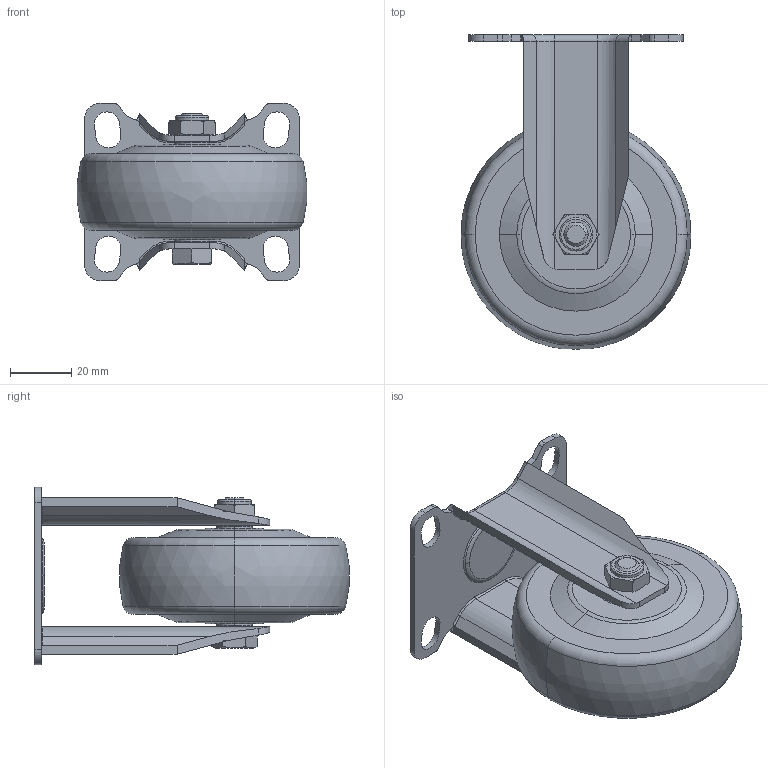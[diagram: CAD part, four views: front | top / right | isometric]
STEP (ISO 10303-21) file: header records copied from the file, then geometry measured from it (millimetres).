
FILE_DESCRIPTION((''),'2;1');
FILE_NAME('S34703_ASM','2021-07-26T',('lenovo'),(''),'PRO/ENGINEER BY PARAMETRIC TECHNOLOGY CORPORATION, 2010280','PRO/ENGINEER BY PARAMETRIC TECHNOLOGY CORPORATION, 2010280','');
FILE_SCHEMA(('CONFIG_CONTROL_DESIGN'));
Length unit declared in the file: millimetre
Products named in the file (5): S343-10; 363-964; S340-33; S340-34; S34703_ASM
Assembly tree (4 placements, depth 2):
  S34703_ASM
    S343-10
    363-964
    S340-33
    S340-34
Bounding box: 74.72 x 102.36 x 57.8 mm (x, y, z)
Volume: 131988.4 mm3; surface area: 34293.3 mm2
Topology: 4 solids, 4 shells, 205 faces, 510 edges, 324 vertices
Faces by surface type: plane 89, cylinder 60, torus 34, cone 20, bspline 2
Entity records: 6603 total; most frequent: CARTESIAN_POINT 1526, DIRECTION 1068, ORIENTED_EDGE 1020, EDGE_CURVE 510, AXIS2_PLACEMENT_3D 408, VERTEX_POINT 324, VECTOR 252, LINE 252
